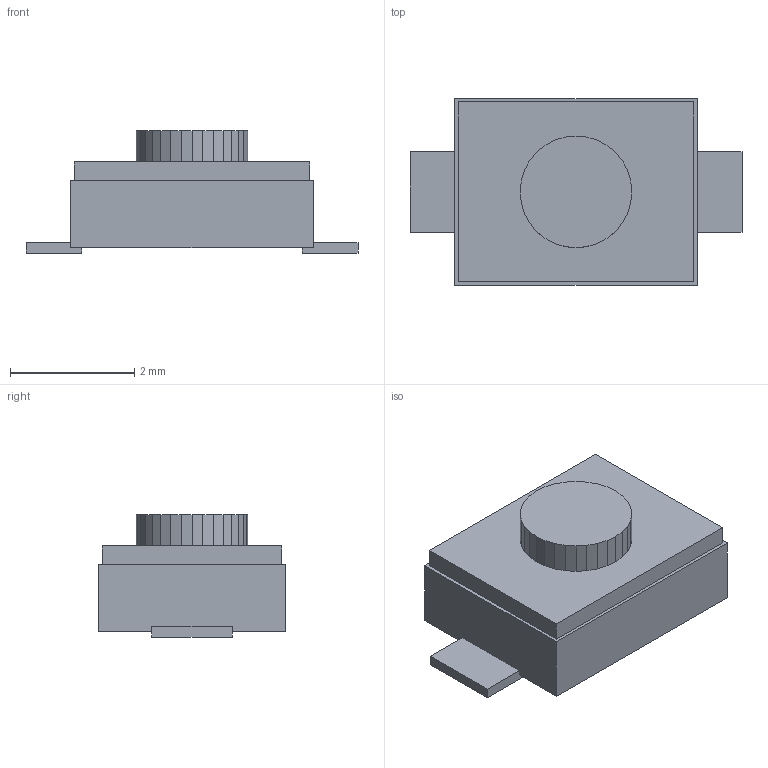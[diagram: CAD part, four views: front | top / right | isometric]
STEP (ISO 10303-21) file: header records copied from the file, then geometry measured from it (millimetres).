
FILE_DESCRIPTION(('FreeCAD Model'),'2;1');
FILE_NAME('Open CASCADE Shape Model','2026-09-23T12:07:02',('FreeCAD'),( 'FreeCAD'),'Open CASCADE STEP processor 7.8','FreeCAD','Unknown');
FILE_SCHEMA(('AUTOMOTIVE_DESIGN { 1 0 10303 214 1 1 1 1 }'));
Length unit declared in the file: millimetre
Products named in the file (1): Open CASCADE STEP translator 7.8 51
Bounding box: 5.35 x 3 x 1.97 mm (x, y, z)
Volume: 17.6 mm3; surface area: 78.4 mm2
Topology: 5 solids, 5 shells, 58 faces, 144 edges, 96 vertices
Faces by surface type: plane 58
Entity records: 1690 total; most frequent: CARTESIAN_POINT 299, ORIENTED_EDGE 288, DIRECTION 262, EDGE_CURVE 144, LINE 144, VECTOR 144, VERTEX_POINT 96, AXIS2_PLACEMENT_3D 59
